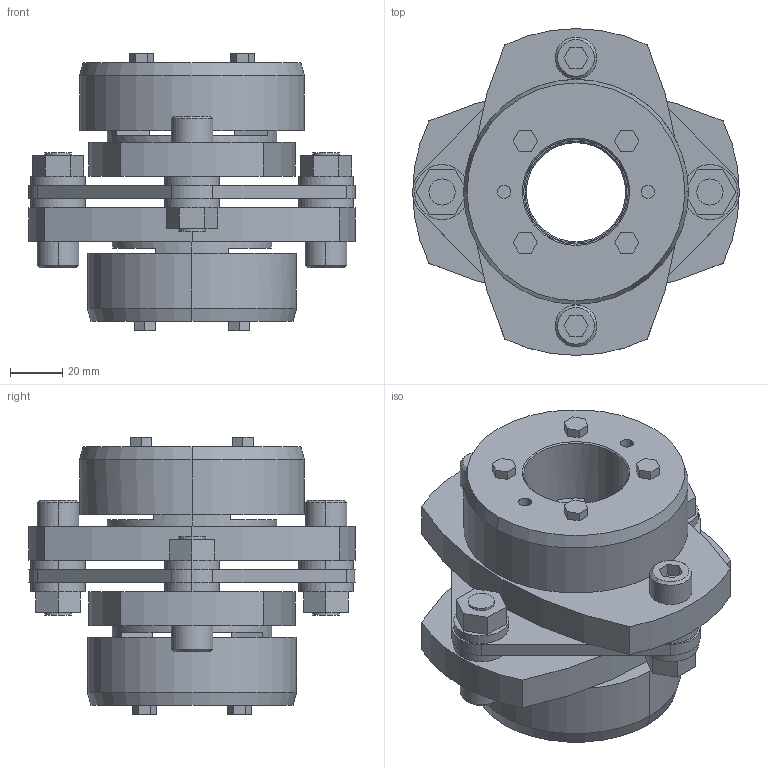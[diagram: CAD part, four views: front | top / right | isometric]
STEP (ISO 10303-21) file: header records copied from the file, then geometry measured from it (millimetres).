
FILE_DESCRIPTION((''),'2;1');
FILE_NAME('LCS-125T7-38×40.stp','2011-09-07T10:00:06',(''),(''),'AutoCAD STEP 2000i','AutoCAD 2000i',', , ');
FILE_SCHEMA(('CONFIG_CONTROL_DESIGN'));
Length unit declared in the file: millimetre
Products named in the file (9): LCS-125T7-38×40; 忣兜1; LC125T7-T040; LC125T7-T038-1; LC125T7-T038; LC125T7-T035; LC125T7-T032-1; LC125T7-T032; LCS125-ITA
Assembly tree (8 placements, depth 2):
  LCS-125T7-38×40
    忣兜1
    LC125T7-T040
    LC125T7-T038-1
    LC125T7-T038
    LC125T7-T035
    LC125T7-T032-1
    LC125T7-T032
    LCS125-ITA
Bounding box: 125 x 125 x 106 mm (x, y, z)
Volume: 478778.9 mm3; surface area: 97796.5 mm2
Topology: 1 solids, 1 shells, 246 faces, 606 edges, 398 vertices
Faces by surface type: plane 146, cylinder 80, cone 20
Entity records: 7527 total; most frequent: DIRECTION 1314, CARTESIAN_POINT 1259, ORIENTED_EDGE 1212, EDGE_CURVE 606, AXIS2_PLACEMENT_3D 453, VECTOR 408, LINE 408, VERTEX_POINT 398
